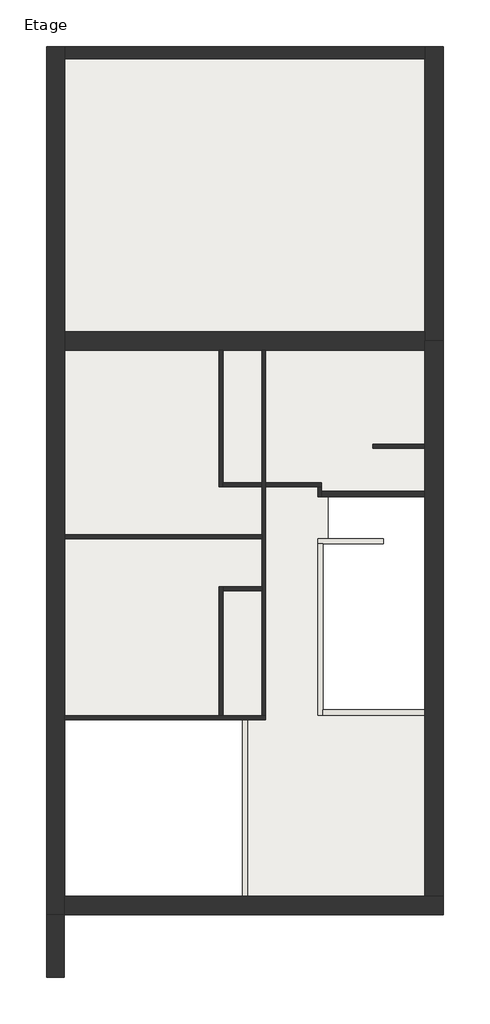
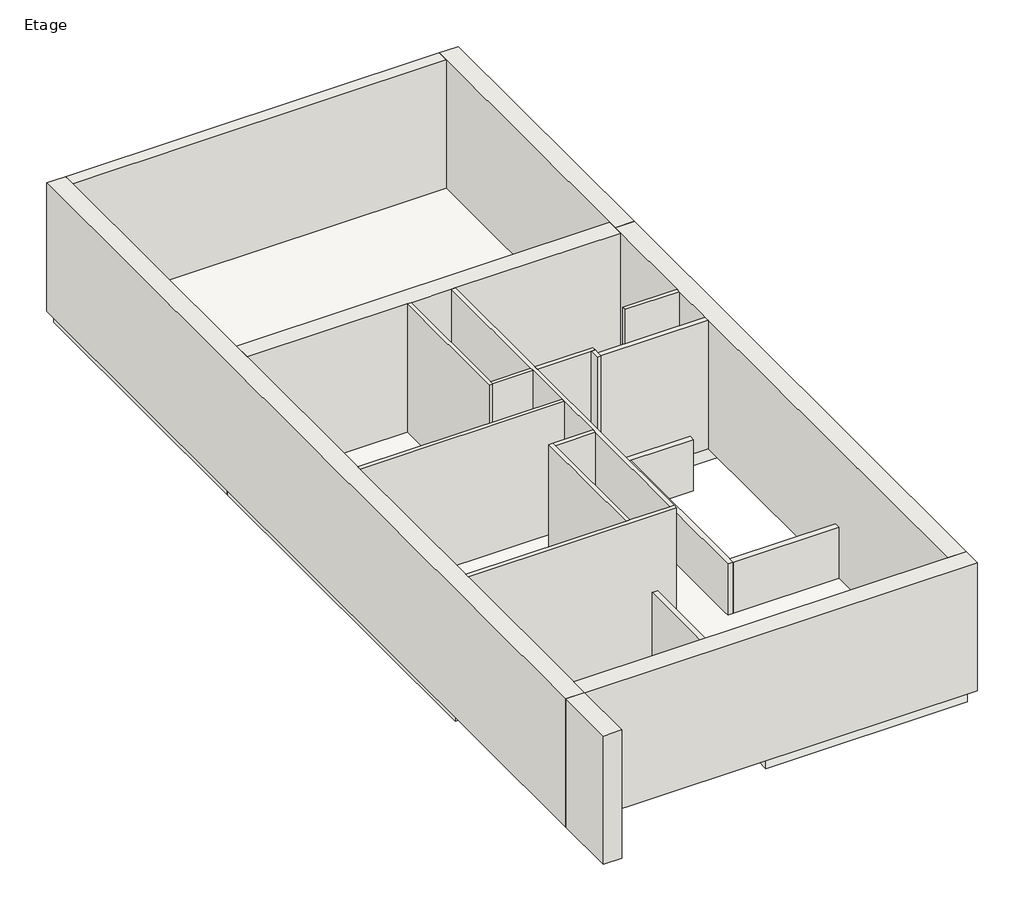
# One storey: 21 walls, 2 slabs.
"""IFC4 building model written with IfcOpenShell, lengths in millimetres."""

from ifc_helpers import new_model, si_unit, frame, origin, place, context, project, spatial, polyline, outline, extrude, faceted_brep, element, save

model = new_model("IFC4")

# Units and contexts
model_context = context("Model", 3, world=origin())
ifc_project = project(units=[si_unit("LENGTHUNIT", "METRE", prefix="MILLI")], contexts=[model_context])

# Site, building, storey
site = spatial("IfcSite", under=ifc_project)
building = spatial("IfcBuilding", under=site)
storey = spatial("IfcBuildingStorey", under=building, Name="Etage", Elevation=3000.0)

# Slabs
placement = place(None, origin())
element("IfcSlab", 1, ObjectType="Dalle en béton", at=placement, inside=storey, context=model_context, shape_type="Brep", body=[
    faceted_brep([(-486.697342, -8615.0425801, 2750.0), (-4198.697342, -8615.0425801, 2750.0), (-4198.697342, -8385.0425801, 2750.0), (-4198.697342, -5005.0425801, 2750.0), (-4198.697342, -4992.0425801, 2750.0), (-7606.697342, -4992.0425801, 2750.0), (-7836.697342, -4992.0425801, 2750.0), (-7836.697342, 2284.9574199, 2750.0), (-7606.697342, 2284.9574199, 2750.0), (-716.697342, 2284.9574199, 2750.0), (-486.697342, 2284.9574199, 2750.0), (-486.697342, 2229.9574199, 2750.0), (-486.697342, 757.8961022, 2750.0), (-486.697342, -732.1038978, 2750.0), (-716.697342, -732.1038978, 2750.0), (-2577.5004576, -732.1038978, 2750.0), (-2577.5004576, -745.1038978, 2750.0), (-2577.5004576, -1545.1038978, 2750.0), (-2577.5004576, -1632.1038978, 2750.0), (-2619.1256089, -1632.1038978, 2750.0), (-2682.3224934, -1632.1038978, 2750.0), (-2682.3224934, -1645.1038978, 2750.0), (-2682.3224934, -4831.0425801, 2750.0), (-2669.3224934, -4831.0425801, 2750.0), (-716.697342, -4831.0425801, 2750.0), (-486.697342, -4831.0425801, 2750.0), (-486.697342, -8615.0425801, 3000.0), (-486.697342, -4831.0425801, 3000.0), (-716.697342, -4831.0425801, 3000.0), (-2669.3224934, -4831.0425801, 3000.0), (-2682.3224934, -4831.0425801, 3000.0), (-2682.3224934, -1645.1038978, 3000.0), (-2682.3224934, -1632.1038978, 3000.0), (-2619.1256089, -1632.1038978, 3000.0), (-2577.5004576, -1632.1038978, 3000.0), (-2577.5004576, -1545.1038978, 3000.0), (-2577.5004576, -745.1038978, 3000.0), (-2577.5004576, -732.1038978, 3000.0), (-716.697342, -732.1038978, 3000.0), (-486.697342, -732.1038978, 3000.0), (-486.697342, 757.8961022, 3000.0), (-486.697342, 2229.9574199, 3000.0), (-486.697342, 2284.9574199, 3000.0), (-716.697342, 2284.9574199, 3000.0), (-7606.697342, 2284.9574199, 3000.0), (-7836.697342, 2284.9574199, 3000.0), (-7836.697342, -4992.0425801, 3000.0), (-7606.697342, -4992.0425801, 3000.0), (-4198.697342, -4992.0425801, 3000.0), (-4198.697342, -5005.0425801, 3000.0), (-4198.697342, -8385.0425801, 3000.0), (-4198.697342, -8615.0425801, 3000.0)], [[[0, 1, 2, 3, 4, 5, 6, 7, 8, 9, 10, 11, 12, 13, 14, 15, 16, 17, 18, 19, 20, 21, 22, 23, 24, 25]], [[26, 27, 28, 29, 30, 31, 32, 33, 34, 35, 36, 37, 38, 39, 40, 41, 42, 43, 44, 45, 46, 47, 48, 49, 50, 51]], [[1, 0, 26, 51]], [[7, 6, 46, 45]], [[10, 9, 8, 7, 45, 44, 43, 42]], [[0, 25, 27, 26]], [[4, 3, 2, 1, 51, 50, 49, 48]], [[6, 5, 4, 48, 47, 46]], [[13, 12, 11, 10, 42, 41, 40, 39]], [[15, 14, 13, 39, 38, 37]], [[18, 17, 16, 15, 37, 36, 35, 34]], [[20, 19, 18, 34, 33, 32]], [[22, 21, 20, 32, 31, 30]], [[25, 24, 23, 22, 30, 29, 28, 27]]]),
])
element("IfcSlab", 2, ObjectType="Dalle en béton", at=placement, inside=storey, context=model_context, shape_type="Brep", body=[
    faceted_brep([(-486.697342, 7834.9574199, 2750.0), (-486.697342, 2284.9574199, 2750.0), (-7836.697342, 2284.9574199, 2750.0), (-7836.697342, 7624.9574199, 2750.0), (-7836.697342, 7834.9574199, 2750.0), (-5616.5193778, 7834.9574199, 2750.0), (-486.697342, 7834.9574199, 3000.0), (-5616.5193778, 7834.9574199, 3000.0), (-7836.697342, 7834.9574199, 3000.0), (-7836.697342, 7624.9574199, 3000.0), (-7836.697342, 2284.9574199, 3000.0), (-486.697342, 2284.9574199, 3000.0)], [[[0, 1, 2, 3, 4, 5]], [[6, 7, 8, 9, 10, 11]], [[1, 0, 6, 11]], [[2, 1, 11, 10]], [[4, 3, 2, 10, 9, 8]], [[0, 5, 4, 8, 7, 6]]]),
])

# Walls
element("IfcWall", 3, ObjectType="Ext. Bardage Métal + Isolant + Béton + Finition", at=placement, inside=storey, context=model_context, shape_type="Brep", body=[
    faceted_brep([(-7956.697342, 7854.9574199, 3000.0), (-7956.697342, 7624.9574199, 3000.0), (-7956.697342, -8735.0425801, 3000.0), (-7956.697342, -8735.0425801, 5500.0), (-7956.697342, 7854.9574199, 5500.0), (-7606.697342, 7854.9574199, 3000.0), (-7606.697342, 7854.9574199, 5500.0), (-7606.697342, 7624.9574199, 5500.0), (-7606.697342, 2404.9574199, 5500.0), (-7606.697342, 2054.9574199, 5500.0), (-7606.697342, -1478.0425801, 5500.0), (-7606.697342, -1550.0425801, 5500.0), (-7606.697342, -4933.0425801, 5500.0), (-7606.697342, -5005.0425801, 5500.0), (-7606.697342, -8385.0425801, 5500.0), (-7606.697342, -8735.0425801, 5500.0), (-7606.697342, -8735.0425801, 3000.0), (-7606.697342, -8385.0425801, 3000.0), (-7606.697342, -4992.0425801, 3000.0), (-7606.697342, -4933.0425801, 3000.0), (-7606.697342, -1550.0425801, 3000.0), (-7606.697342, -1478.0425801, 3000.0), (-7606.697342, 2054.9574199, 3000.0), (-7606.697342, 2284.9574199, 3000.0), (-7606.697342, 2404.9574199, 3000.0), (-7606.697342, 7624.9574199, 3000.0), (-7616.697342, -8735.0425801, 3000.0), (-7616.697342, -8735.0425801, 5500.0)], [[[0, 1, 2, 3, 4]], [[5, 6, 7, 8, 9, 10, 11, 12, 13, 14, 15, 16, 17, 18, 19, 20, 21, 22, 23, 24, 25]], [[2, 1, 0, 5, 25, 24, 23, 22, 21, 20, 19, 18, 17, 16, 26]], [[4, 3, 27, 15, 14, 13, 12, 11, 10, 9, 8, 7, 6]], [[0, 4, 6, 5]], [[3, 2, 26, 16, 15, 27]]]),
])
element("IfcWall", 4, ObjectType="Ext. Bardage Bois + Isolant + Béton + Finition", at=placement, inside=storey, context=model_context, shape_type="Brep", body=[
    faceted_brep([(-7606.697342, -8735.0425801, 3000.0), (-366.697342, -8735.0425801, 3000.0), (-366.697342, -8735.0425801, 5500.0), (-7606.697342, -8735.0425801, 5500.0), (-7606.697342, -8385.0425801, 3000.0), (-7606.697342, -8385.0425801, 5500.0), (-716.697342, -8385.0425801, 5500.0), (-366.697342, -8385.0425801, 5500.0), (-366.697342, -8385.0425801, 3000.0), (-716.697342, -8385.0425801, 3000.0), (-4111.697342, -8385.0425801, 3000.0), (-4198.697342, -8385.0425801, 3000.0)], [[[0, 1, 2, 3]], [[4, 5, 6, 7, 8, 9, 10, 11]], [[1, 0, 4, 11, 10, 9, 8]], [[3, 2, 7, 6, 5]], [[2, 1, 8, 7]], [[0, 3, 5, 4]]]),
])
element("IfcWall", 5, ObjectType="Ext. Bardage Bois + Isolant + Béton + Finition", at=placement, inside=storey, context=model_context, shape_type="Brep", body=[
    faceted_brep([(-366.697342, -8385.0425801, 3000.0), (-366.697342, -3635.0425801, 3000.0), (-366.697342, 2229.9574199, 3000.0), (-366.697342, 2229.9574199, 5500.0), (-366.697342, -8385.0425801, 5500.0), (-716.697342, -8385.0425801, 3000.0), (-716.697342, -8385.0425801, 5500.0), (-716.697342, -745.1038978, 5500.0), (-716.697342, -645.1038978, 5500.0), (-716.697342, 179.9574199, 5500.0), (-716.697342, 251.9574199, 5500.0), (-716.697342, 2054.9574199, 5500.0), (-716.697342, 2229.9574199, 5500.0), (-716.697342, 2229.9574199, 3000.0), (-716.697342, 2054.9574199, 3000.0), (-716.697342, 251.9574199, 3000.0), (-716.697342, 179.9574199, 3000.0), (-716.697342, -645.1038978, 3000.0), (-716.697342, -732.1038978, 3000.0), (-716.697342, -745.1038978, 3000.0), (-716.697342, -3635.0425801, 3000.0), (-716.697342, -4831.0425801, 3000.0), (-716.697342, -4918.0425801, 3000.0), (-486.697342, 2229.9574199, 3000.0)], [[[0, 1, 2, 3, 4]], [[5, 6, 7, 8, 9, 10, 11, 12, 13, 14, 15, 16, 17, 18, 19, 20, 21, 22]], [[2, 1, 0, 5, 22, 21, 20, 19, 18, 17, 16, 15, 14, 13, 23]], [[3, 2, 23, 13, 12]], [[4, 3, 12, 11, 10, 9, 8, 7, 6]], [[0, 4, 6, 5]]]),
])
element("IfcWall", 6, ObjectType="Ext. Bardage Bois + Isolant + Béton + Finition", at=placement, inside=storey, context=model_context, shape_type="Brep", body=[
    faceted_brep([(-716.697342, 2404.9574199, 3000.0), (-7606.697342, 2404.9574199, 3000.0), (-7606.697342, 2404.9574199, 5500.0), (-716.697342, 2404.9574199, 5500.0), (-716.697342, 2054.9574199, 3000.0), (-716.697342, 2054.9574199, 5500.0), (-3765.3224934, 2054.9574199, 5500.0), (-3837.3224934, 2054.9574199, 5500.0), (-4580.3224934, 2054.9574199, 5500.0), (-4652.3224934, 2054.9574199, 5500.0), (-7606.697342, 2054.9574199, 5500.0), (-7606.697342, 2054.9574199, 3000.0), (-4652.3224934, 2054.9574199, 3000.0), (-4580.3224934, 2054.9574199, 3000.0), (-3837.3224934, 2054.9574199, 3000.0), (-3765.3224934, 2054.9574199, 3000.0), (-716.697342, 2284.9574199, 3000.0), (-716.697342, 2229.9574199, 3000.0), (-716.697342, 2229.9574199, 5500.0)], [[[0, 1, 2, 3]], [[4, 5, 6, 7, 8, 9, 10, 11, 12, 13, 14, 15]], [[1, 0, 16, 17, 4, 15, 14, 13, 12, 11]], [[3, 2, 10, 9, 8, 7, 6, 5, 18]], [[2, 1, 11, 10]], [[0, 3, 18, 5, 4, 17, 16]]]),
])
element("IfcWall", 7, ObjectType="Int. Plâtre 70 mm", at=placement, inside=storey, context=model_context, shape_type="Brep", body=[
    faceted_brep([(-3765.3224934, -5005.0425801, 5500.0), (-7606.697342, -5005.0425801, 5500.0), (-7606.697342, -5005.0425801, 2750.0), (-4211.697342, -5005.0425801, 2750.0), (-4198.697342, -5005.0425801, 2750.0), (-4198.697342, -5005.0425801, 3000.0), (-4111.697342, -5005.0425801, 3000.0), (-3765.3224934, -5005.0425801, 3000.0), (-7606.697342, -4933.0425801, 5500.0), (-4652.3224934, -4933.0425801, 5500.0), (-4580.3224934, -4933.0425801, 5500.0), (-3837.3224934, -4933.0425801, 5500.0), (-3765.3224934, -4933.0425801, 5500.0), (-3765.3224934, -4933.0425801, 3000.0), (-3837.3224934, -4933.0425801, 3000.0), (-4580.3224934, -4933.0425801, 3000.0), (-4652.3224934, -4933.0425801, 3000.0), (-7606.697342, -4933.0425801, 3000.0), (-7606.697342, -4992.0425801, 2750.0), (-4198.697342, -4992.0425801, 2750.0), (-7606.697342, -4992.0425801, 3000.0), (-4198.697342, -4992.0425801, 3000.0)], [[[0, 1, 2, 3, 4, 5, 6, 7]], [[8, 9, 10, 11, 12, 13, 14, 15, 16, 17]], [[4, 3, 2, 18, 19]], [[1, 0, 12, 11, 10, 9, 8]], [[12, 0, 7, 13]], [[1, 8, 17, 20, 18, 2]], [[5, 21, 20, 17, 16, 15, 14, 13, 7, 6]], [[19, 21, 5, 4]], [[21, 19, 18, 20]]]),
])
element("IfcWall", 8, ObjectType="Int. Plâtre 70 mm", at=placement, inside=storey, context=model_context, shape_type="Brep", body=[
    faceted_brep([(-3765.3224934, -4933.0425801, 3000.0), (-3765.3224934, -556.0425801, 3000.0), (-3765.3224934, -484.0425801, 3000.0), (-3765.3224934, 2054.9574199, 3000.0), (-3765.3224934, 2054.9574199, 5500.0), (-3765.3224934, -484.0425801, 5500.0), (-3765.3224934, -556.0425801, 5500.0), (-3765.3224934, -4933.0425801, 5500.0), (-3837.3224934, -4933.0425801, 3000.0), (-3837.3224934, -4933.0425801, 5500.0), (-3837.3224934, -2542.0425801, 5500.0), (-3837.3224934, -2470.0425801, 5500.0), (-3837.3224934, -1550.0425801, 5500.0), (-3837.3224934, -1478.0425801, 5500.0), (-3837.3224934, -556.0425801, 5500.0), (-3837.3224934, -484.0425801, 5500.0), (-3837.3224934, 2054.9574199, 5500.0), (-3837.3224934, 2054.9574199, 3000.0), (-3837.3224934, -484.0425801, 3000.0), (-3837.3224934, -556.0425801, 3000.0), (-3837.3224934, -1478.0425801, 3000.0), (-3837.3224934, -1550.0425801, 3000.0), (-3837.3224934, -2470.0425801, 3000.0), (-3837.3224934, -2542.0425801, 3000.0)], [[[0, 1, 2, 3, 4, 5, 6, 7]], [[8, 9, 10, 11, 12, 13, 14, 15, 16, 17, 18, 19, 20, 21, 22, 23]], [[3, 2, 1, 0, 8, 23, 22, 21, 20, 19, 18, 17]], [[7, 6, 5, 4, 16, 15, 14, 13, 12, 11, 10, 9]], [[0, 7, 9, 8]], [[4, 3, 17, 16]]]),
])
element("IfcWall", 9, ObjectType="Int. Plâtre 70 mm", at=placement, inside=storey, context=model_context, shape_type="Brep", body=[
    faceted_brep([(-4652.3224934, 2054.9574199, 3000.0), (-4652.3224934, -556.0425801, 3000.0), (-4652.3224934, -556.0425801, 5500.0), (-4652.3224934, 2054.9574199, 5500.0), (-4580.3224934, 2054.9574199, 3000.0), (-4580.3224934, 2054.9574199, 5500.0), (-4580.3224934, -484.0425801, 5500.0), (-4580.3224934, -556.0425801, 5500.0), (-4580.3224934, -556.0425801, 3000.0), (-4580.3224934, -484.0425801, 3000.0)], [[[0, 1, 2, 3]], [[4, 5, 6, 7, 8, 9]], [[1, 0, 4, 9, 8]], [[3, 2, 7, 6, 5]], [[0, 3, 5, 4]], [[2, 1, 8, 7]]]),
])
element("IfcWall", 10, ObjectType="Int. Plâtre 70 mm", at=placement, inside=storey, context=model_context, shape_type="Brep", body=[
    faceted_brep([(-4580.3224934, -556.0425801, 5500.0), (-4580.3224934, -556.0425801, 3000.0), (-3837.3224934, -556.0425801, 3000.0), (-3837.3224934, -556.0425801, 5500.0), (-4580.3224934, -484.0425801, 3000.0), (-4580.3224934, -484.0425801, 5500.0), (-3837.3224934, -484.0425801, 5500.0), (-3837.3224934, -484.0425801, 3000.0)], [[[0, 1, 2, 3]], [[4, 5, 6, 7]], [[1, 4, 7, 2]], [[5, 0, 3, 6]], [[1, 0, 5, 4]], [[3, 2, 7, 6]]]),
    faceted_brep([(-2697.3224934, -556.0425801, 3000.0), (-2697.3224934, -556.0425801, 5500.0), (-2769.3224934, -556.0425801, 5500.0), (-3765.3224934, -556.0425801, 5500.0), (-3765.3224934, -556.0425801, 3000.0), (-2769.3224934, -556.0425801, 3000.0), (-2697.3224934, -484.0425801, 5500.0), (-2697.3224934, -484.0425801, 3000.0), (-3765.3224934, -484.0425801, 3000.0), (-3765.3224934, -484.0425801, 5500.0)], [[[0, 1, 2, 3, 4, 5]], [[6, 7, 8, 9]], [[7, 0, 5, 4, 8]], [[1, 6, 9, 3, 2]], [[4, 3, 9, 8]], [[1, 0, 7, 6]]]),
])
element("IfcWall", 11, ObjectType="Int. Plâtre 70 mm", at=placement, inside=storey, context=model_context, shape_type="Brep", body=[
    faceted_brep([(-2769.3224934, -556.0425801, 3000.0), (-2769.3224934, -745.1038978, 3000.0), (-2769.3224934, -745.1038978, 5500.0), (-2769.3224934, -556.0425801, 5500.0), (-2697.3224934, -556.0425801, 3000.0), (-2697.3224934, -556.0425801, 5500.0), (-2697.3224934, -645.1038978, 5500.0), (-2697.3224934, -745.1038978, 5500.0), (-2697.3224934, -745.1038978, 3000.0), (-2697.3224934, -645.1038978, 3000.0)], [[[0, 1, 2, 3]], [[4, 5, 6, 7, 8, 9]], [[1, 0, 4, 9, 8]], [[3, 2, 7, 6, 5]], [[0, 3, 5, 4]], [[2, 1, 8, 7]]]),
])
element("IfcWall", 12, ObjectType="Int. Plâtre 70 mm", at=placement, inside=storey, context=model_context, shape_type="SweptSolid", body=[
    extrude(outline(polyline([(-1715.2343073, 251.9574199), (-716.697342, 251.9574199), (-716.697342, 179.9574199), (-1715.2343073, 179.9574199), (-1715.2343073, 251.9574199)])), frame((0.0, 0.0, 3000.0), z_axis=(0.0, 0.0, 1.0), x_axis=(1.0, 0.0, 0.0)), (0.0, 0.0, 1.0), 2500.0),
])
element("IfcWall", 13, ObjectType="Int. Plâtre 70 mm", at=placement, inside=storey, context=model_context, shape_type="Brep", body=[
    faceted_brep([(-4580.3224934, -4933.0425801, 3000.0), (-4580.3224934, -2542.0425801, 3000.0), (-4580.3224934, -2470.0425801, 3000.0), (-4580.3224934, -2470.0425801, 5500.0), (-4580.3224934, -2542.0425801, 5500.0), (-4580.3224934, -4933.0425801, 5500.0), (-4652.3224934, -4933.0425801, 3000.0), (-4652.3224934, -4933.0425801, 5500.0), (-4652.3224934, -2470.0425801, 5500.0), (-4652.3224934, -2470.0425801, 3000.0)], [[[0, 1, 2, 3, 4, 5]], [[6, 7, 8, 9]], [[2, 1, 0, 6, 9]], [[5, 4, 3, 8, 7]], [[0, 5, 7, 6]], [[3, 2, 9, 8]]]),
])
element("IfcWall", 14, ObjectType="Int. Plâtre 70 mm", at=placement, inside=storey, context=model_context, shape_type="SweptSolid", body=[
    extrude(outline(polyline([(-3837.3224934, -2542.0425801), (-4580.3224934, -2542.0425801), (-4580.3224934, -2470.0425801), (-3837.3224934, -2470.0425801), (-3837.3224934, -2542.0425801)])), frame((0.0, 0.0, 3000.0), z_axis=(0.0, 0.0, 1.0), x_axis=(1.0, 0.0, 0.0)), (0.0, 0.0, 1.0), 2500.0),
])
element("IfcWall", 15, ObjectType="Int. Plâtre 70 mm", at=placement, inside=storey, context=model_context, shape_type="SweptSolid", body=[
    extrude(outline(polyline([(-7606.697342, -1478.0425801), (-3837.3224934, -1478.0425801), (-3837.3224934, -1550.0425801), (-7606.697342, -1550.0425801), (-7606.697342, -1478.0425801)])), frame((0.0, 0.0, 3000.0), z_axis=(0.0, 0.0, 1.0), x_axis=(1.0, 0.0, 0.0)), (0.0, 0.0, 1.0), 2500.0),
])
element("IfcWall", 16, ObjectType="Int. Plâtre 100 mm", at=placement, inside=storey, context=model_context, shape_type="Brep", body=[
    faceted_brep([(-716.697342, -645.1038978, 3000.0), (-2697.3224934, -645.1038978, 3000.0), (-2697.3224934, -645.1038978, 5500.0), (-716.697342, -645.1038978, 5500.0), (-716.697342, -745.1038978, 3000.0), (-716.697342, -745.1038978, 5500.0), (-2697.3224934, -745.1038978, 5500.0), (-2697.3224934, -745.1038978, 3000.0), (-2577.5004576, -745.1038978, 3000.0), (-716.697342, -732.1038978, 3000.0)], [[[0, 1, 2, 3]], [[4, 5, 6, 7, 8]], [[1, 0, 9, 4, 8, 7]], [[3, 2, 6, 5]], [[0, 3, 5, 4, 9]], [[2, 1, 7, 6]]]),
])
element("IfcWall", 17, ObjectType="Int. Plâtre 100 mm", at=placement, inside=storey, context=model_context, shape_type="Brep", body=[
    faceted_brep([(-2769.3224934, -1645.1038978, 3000.0), (-2682.3224934, -1645.1038978, 3000.0), (-2619.1256089, -1645.1038978, 3000.0), (-1515.8753062, -1645.1038978, 3000.0), (-1515.8753062, -1645.1038978, 4000.0), (-2669.3224934, -1645.1038978, 4000.0), (-2769.3224934, -1645.1038978, 4000.0), (-2769.3224934, -1545.1038978, 3000.0), (-2769.3224934, -1545.1038978, 4000.0), (-1515.8753062, -1545.1038978, 4000.0), (-1515.8753062, -1545.1038978, 3000.0), (-2577.5004576, -1545.1038978, 3000.0)], [[[0, 1, 2, 3, 4, 5, 6]], [[7, 8, 9, 10, 11]], [[3, 2, 1, 0, 7, 11, 10]], [[4, 3, 10, 9]], [[6, 5, 4, 9, 8]], [[0, 6, 8, 7]]]),
])
element("IfcWall", 18, ObjectType="Int. Plâtre 100 mm", at=placement, inside=storey, context=model_context, shape_type="Brep", body=[
    faceted_brep([(-2669.3224934, -1645.1038978, 4000.0), (-2669.3224934, -4818.0425801, 4000.0), (-2669.3224934, -4918.0425801, 4000.0), (-2669.3224934, -4918.0425801, 3000.0), (-2669.3224934, -4831.0425801, 3000.0), (-2669.3224934, -4831.0425801, 2750.0), (-2669.3224934, -4818.0425801, 2750.0), (-2669.3224934, -1645.1038978, 2750.0), (-2769.3224934, -4918.0425801, 4000.0), (-2769.3224934, -1645.1038978, 4000.0), (-2769.3224934, -1645.1038978, 3000.0), (-2769.3224934, -4918.0425801, 3000.0), (-2682.3224934, -4831.0425801, 2750.0), (-2682.3224934, -1645.1038978, 2750.0), (-2682.3224934, -1645.1038978, 3000.0), (-2682.3224934, -4831.0425801, 3000.0)], [[[0, 1, 2, 3, 4, 5, 6, 7]], [[8, 9, 10, 11]], [[7, 6, 5, 12, 13]], [[2, 1, 0, 9, 8]], [[2, 8, 11, 3]], [[9, 0, 7, 13, 14, 10]], [[14, 15, 4, 3, 11, 10]], [[12, 15, 14, 13]], [[15, 12, 5, 4]]]),
])
element("IfcWall", 19, ObjectType="Int. Plâtre 100 mm", at=placement, inside=storey, context=model_context, shape_type="SweptSolid", body=[
    extrude(outline(polyline([(-4818.0425801, 4000.0), (-4818.0425801, 2750.0), (-4831.0425801, 2750.0), (-4831.0425801, 3000.0), (-4918.0425801, 3000.0), (-4918.0425801, 4000.0), (-4818.0425801, 4000.0)])), frame((-2669.3224934, 0.0, 0.0), z_axis=(1.0, 0.0, 0.0), x_axis=(0.0, 1.0, 0.0)), (0.0, 0.0, 1.0), 1952.6251514),
])
element("IfcWall", 20, ObjectType="Int. Plâtre 100 mm", at=placement, inside=storey, context=model_context, shape_type="SweptSolid", body=[
    extrude(outline(polyline([(4000.0, -4111.697342), (4000.0, -4211.697342), (2750.0, -4211.697342), (2750.0, -4198.697342), (3000.0, -4198.697342), (3000.0, -4111.697342), (4000.0, -4111.697342)])), frame((0.0, -8385.0425801, 0.0), z_axis=(0.0, 1.0, 0.0), x_axis=(0.0, 0.0, 1.0)), (0.0, 0.0, 1.0), 3380.0),
])
element("IfcWall", 21, ObjectType="Ext. Bardage Bois + Béton + Finition", at=placement, inside=storey, context=model_context, shape_type="Brep", body=[
    faceted_brep([(-7606.697342, 7624.9574199, 3000.0), (-716.697342, 7624.9574199, 3000.0), (-716.697342, 7624.9574199, 5500.0), (-7606.697342, 7624.9574199, 5500.0), (-7606.697342, 7854.9574199, 3000.0), (-7606.697342, 7854.9574199, 5500.0), (-716.697342, 7854.9574199, 5500.0), (-716.697342, 7854.9574199, 3000.0), (-5616.5193778, 7854.9574199, 3000.0)], [[[0, 1, 2, 3]], [[4, 5, 6, 7, 8]], [[1, 0, 4, 8, 7]], [[3, 2, 6, 5]], [[0, 3, 5, 4]], [[2, 1, 7, 6]]]),
])
element("IfcWall", 22, ObjectType="Ext. Bardage Bois + Isolant + Béton + Finition", at=placement, inside=storey, context=model_context, shape_type="Brep", body=[
    faceted_brep([(-366.697342, 2229.9574199, 2750.0), (-366.697342, 2404.9574199, 2750.0), (-366.697342, 7614.9574199, 2750.0), (-366.697342, 7854.9574199, 2750.0), (-366.697342, 7854.9574199, 5500.0), (-366.697342, 2229.9574199, 5500.0), (-366.697342, 2229.9574199, 3000.0), (-716.697342, 2229.9574199, 5500.0), (-716.697342, 2404.9574199, 5500.0), (-716.697342, 7624.9574199, 5500.0), (-716.697342, 7854.9574199, 5500.0), (-716.697342, 7854.9574199, 3000.0), (-716.697342, 7854.9574199, 2750.0), (-716.697342, 7614.9574199, 2750.0), (-716.697342, 2404.9574199, 2750.0), (-716.697342, 2284.9574199, 2750.0), (-716.697342, 2284.9574199, 3000.0), (-716.697342, 2229.9574199, 3000.0), (-486.697342, 2229.9574199, 2750.0), (-486.697342, 2284.9574199, 2750.0), (-486.697342, 2229.9574199, 3000.0), (-486.697342, 2284.9574199, 3000.0)], [[[0, 1, 2, 3, 4, 5, 6]], [[7, 8, 9, 10, 11, 12, 13, 14, 15, 16, 17]], [[3, 2, 1, 0, 18, 19, 15, 14, 13, 12]], [[5, 4, 10, 9, 8, 7]], [[0, 6, 5, 7, 17, 20, 18]], [[4, 3, 12, 11, 10]], [[16, 21, 20, 17]], [[21, 16, 15, 19]], [[20, 21, 19, 18]]]),
])
element("IfcWall", 23, ObjectType="Ext. Bardage Métal + Isolant + Béton + Bardage Bois", at=placement, inside=storey, context=model_context, shape_type="SweptSolid", body=[
    extrude(outline(polyline([(-7956.697342, -9932.1038978), (-7956.697342, -8735.0425801), (-7616.697342, -8735.0425801), (-7616.697342, -9932.1038978), (-7956.697342, -9932.1038978)])), frame((0.0, 0.0, 3000.0), z_axis=(0.0, 0.0, 1.0), x_axis=(1.0, 0.0, 0.0)), (0.0, 0.0, 1.0), 2500.0),
])

save(model, "model.ifc")
